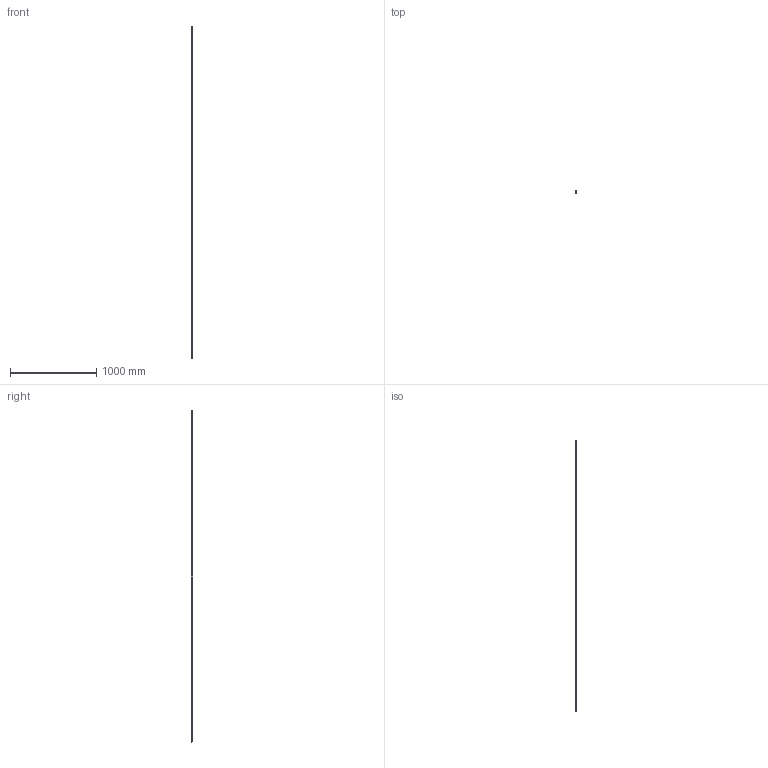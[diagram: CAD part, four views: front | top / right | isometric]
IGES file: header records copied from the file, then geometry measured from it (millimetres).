
Start section: 3D InterOp IGES (v. 2019 1.0.2), Spatial Corp. Copyright (c) 1999-2017.
Global section: file name: R1605.6_size15.igs; native system: Spatial Corp.; preprocessor: 3D InterOp GENERIC/IGES 3.0; author: Noname; organization: Noname; date: 20220629.163454; units: millimetre
Bounding box: 16.5 x 17.25 x 3846.61 mm (x, y, z)
Surface area: 386987.9 mm2 (no closed solid volume)
Topology: 0 solids, 0 shells, 1356 faces, 7388 edges, 7384 vertices
Faces by surface type: extrusion 976, revolution 380
